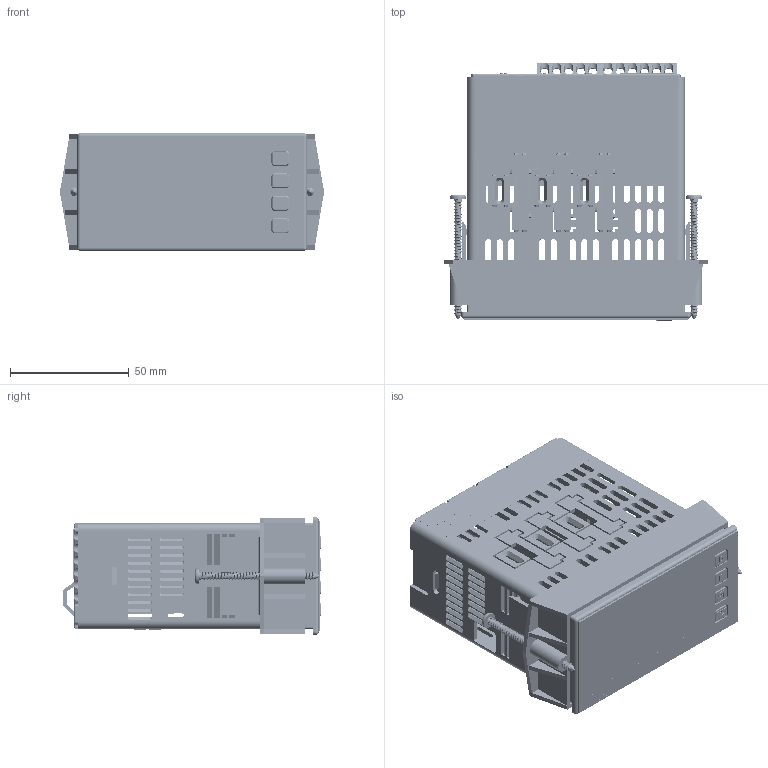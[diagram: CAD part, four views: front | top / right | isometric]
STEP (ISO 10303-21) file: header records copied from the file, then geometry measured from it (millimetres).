
FILE_DESCRIPTION(/* description */ ('Unknown'),/* implementation_level */ '2;1');
FILE_NAME(/* name */ 'PAX2D',/* time_stamp */ '2022-12-20T16:06:28-05:00',/* author */ ('Unknown'),/* organization */ ('Unknown'),/* preprocessor_version */ 'ST-DEVELOPER v16.7',/* originating_system */ 'DEX',/* authorisation */ $);
FILE_SCHEMA (('AUTOMOTIVE_DESIGN {1 0 10303 214 3 1 1}'));
Products named in the file (22): PAX2D; CA462300; GK004638 modified; M4401-opaque; CV002123; SB2B6880; SCOCDO87 LCD; HWM04630; M4354-0; PaxQuadRelay; HWMCLP09; Option Card 6 position (Generic)holes wrong; Label LB04818_; HWSTQP64; CV114626 ; LABEL LB02238X; CV462801; Label LB04935A; LABEL LB04934A; MSLB0025; Flex46 formed; CV114624
Assembly tree (22 placements, depth 2):
  PAX2D
    CA462300
    GK004638 modified
    M4401-opaque
    CV002123
    SB2B6880
    SCOCDO87 LCD
    HWM04630
    M4354-0
    PaxQuadRelay
    HWMCLP09
    Option Card 6 position (Generic)holes wrong
    Label LB04818_
    HWSTQP64  x2
    CV114626 
    LABEL LB02238X
    CV462801
    Label LB04935A
    LABEL LB04934A
    MSLB0025
    Flex46 formed
    CV114624
Bounding box: 111.07 x 108.71 x 49.53 mm (x, y, z)
Volume: 97882.9 mm3; surface area: 162249.9 mm2
Topology: 19 solids, 20 shells, 5815 faces, 15650 edges, 10258 vertices
Faces by surface type: plane 4324, cylinder 1117, bspline 297, cone 42, sphere 23, torus 12
Full cylindrical faces by diameter (mm): 1.372 x6, 1.651 x2, 3.226 x2, 3.505 x72, 5.004 x4, 5.715 x4, 6.68 x2, 7.239 x4
Entity records: 228621 total; most frequent: CARTESIAN_POINT 54016, ORIENTED_EDGE 30546, DIRECTION 28036, EDGE_CURVE 15273, LINE 12406, VECTOR 12406, VERTEX_POINT 10058, AXIS2_PLACEMENT_3D 7815
